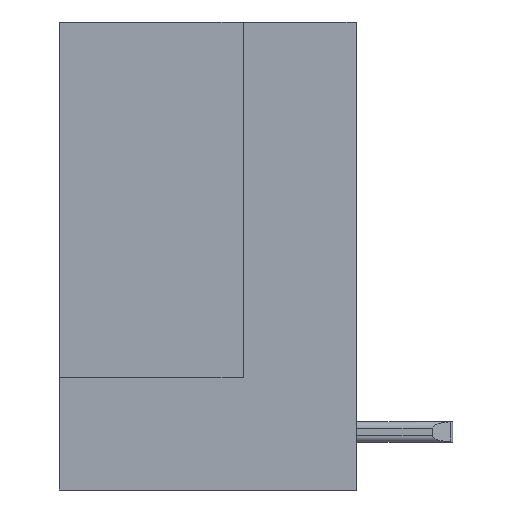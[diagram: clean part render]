
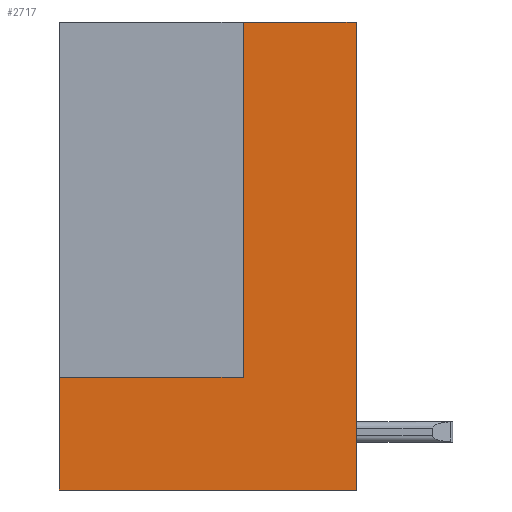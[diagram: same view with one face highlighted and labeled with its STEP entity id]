
A CAD part, left-side view. The second image highlights one B-rep face of the part: STEP entity #2717.
In plain terms, the highlighted planar face has unit normal (-1, 0, 0).
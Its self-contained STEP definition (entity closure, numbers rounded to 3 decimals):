
#1166 = DIRECTION ( 'NONE',  ( 0., -1., 0. ) ) ;
#1471 = VECTOR ( 'NONE', #2629, 1000. ) ;
#2485 = VERTEX_POINT ( 'NONE', #5308 ) ;
#2504 = LINE ( 'NONE', #2799, #29724 ) ;
#2629 = DIRECTION ( 'NONE',  ( 0., -1., 0. ) ) ;
#2717 = ADVANCED_FACE ( 'NONE', ( #21319 ), #11133, .F. ) ;
#2799 = CARTESIAN_POINT ( 'NONE',  ( -45.41, 9.2, 0. ) ) ;
#3296 = VERTEX_POINT ( 'NONE', #22515 ) ;
#3871 = ORIENTED_EDGE ( 'NONE', *, *, #23318, .T. ) ;
#4095 = ORIENTED_EDGE ( 'NONE', *, *, #30439, .F. ) ;
#4959 = VECTOR ( 'NONE', #4970, 1000. ) ;
#4970 = DIRECTION ( 'NONE',  ( 0., 0., 1. ) ) ;
#5062 = ORIENTED_EDGE ( 'NONE', *, *, #23436, .F. ) ;
#5125 = ORIENTED_EDGE ( 'NONE', *, *, #16548, .T. ) ;
#5308 = CARTESIAN_POINT ( 'NONE',  ( -45.41, 0., 0. ) ) ;
#6150 = EDGE_CURVE ( 'NONE', #3296, #32903, #8232, .T. ) ;
#6926 = ORIENTED_EDGE ( 'NONE', *, *, #24006, .F. ) ;
#8232 = LINE ( 'NONE', #15556, #4959 ) ;
#8474 = DIRECTION ( 'NONE',  ( 0., 0., 1. ) ) ;
#9888 = AXIS2_PLACEMENT_3D ( 'NONE', #19327, #24317, #27537 ) ;
#10088 = LINE ( 'NONE', #13550, #1471 ) ;
#10844 = CARTESIAN_POINT ( 'NONE',  ( -45.41, 0., -14.5 ) ) ;
#11088 = CARTESIAN_POINT ( 'NONE',  ( -45.41, 0., -14.5 ) ) ;
#11133 = PLANE ( 'NONE',  #9888 ) ;
#12138 = VERTEX_POINT ( 'NONE', #12580 ) ;
#12580 = CARTESIAN_POINT ( 'NONE',  ( -45.41, 3.5, 0. ) ) ;
#12820 = LINE ( 'NONE', #27094, #14855 ) ;
#13174 = DIRECTION ( 'NONE',  ( 0., 0., 1. ) ) ;
#13550 = CARTESIAN_POINT ( 'NONE',  ( -45.41, 9.2, -14.5 ) ) ;
#13572 = CARTESIAN_POINT ( 'NONE',  ( -45.41, 3.5, -11. ) ) ;
#14855 = VECTOR ( 'NONE', #1166, 1000. ) ;
#15556 = CARTESIAN_POINT ( 'NONE',  ( -45.41, 9.2, -14.5 ) ) ;
#16548 = EDGE_CURVE ( 'NONE', #3296, #33557, #10088, .T. ) ;
#18512 = VECTOR ( 'NONE', #8474, 1000. ) ;
#18690 = DIRECTION ( 'NONE',  ( 0., -1., 0. ) ) ;
#19327 = CARTESIAN_POINT ( 'NONE',  ( -45.41, 9.2, -14.5 ) ) ;
#21319 = FACE_OUTER_BOUND ( 'NONE', #30827, .T. ) ;
#21868 = CARTESIAN_POINT ( 'NONE',  ( -45.41, 9.2, -11. ) ) ;
#22515 = CARTESIAN_POINT ( 'NONE',  ( -45.41, 9.2, -14.5 ) ) ;
#23119 = VERTEX_POINT ( 'NONE', #28169 ) ;
#23318 = EDGE_CURVE ( 'NONE', #33557, #2485, #24783, .T. ) ;
#23436 = EDGE_CURVE ( 'NONE', #12138, #2485, #2504, .T. ) ;
#24006 = EDGE_CURVE ( 'NONE', #23119, #12138, #27216, .T. ) ;
#24317 = DIRECTION ( 'NONE',  ( 1., 0., 0. ) ) ;
#24783 = LINE ( 'NONE', #10844, #26028 ) ;
#26028 = VECTOR ( 'NONE', #13174, 1000. ) ;
#27094 = CARTESIAN_POINT ( 'NONE',  ( -45.41, 9.2, -11. ) ) ;
#27216 = LINE ( 'NONE', #13572, #18512 ) ;
#27537 = DIRECTION ( 'NONE',  ( 0., 0., -1. ) ) ;
#28169 = CARTESIAN_POINT ( 'NONE',  ( -45.41, 3.5, -11. ) ) ;
#29724 = VECTOR ( 'NONE', #18690, 1000. ) ;
#29971 = ORIENTED_EDGE ( 'NONE', *, *, #6150, .F. ) ;
#30439 = EDGE_CURVE ( 'NONE', #32903, #23119, #12820, .T. ) ;
#30827 = EDGE_LOOP ( 'NONE', ( #6926, #4095, #29971, #5125, #3871, #5062 ) ) ;
#32903 = VERTEX_POINT ( 'NONE', #21868 ) ;
#33557 = VERTEX_POINT ( 'NONE', #11088 ) ;
